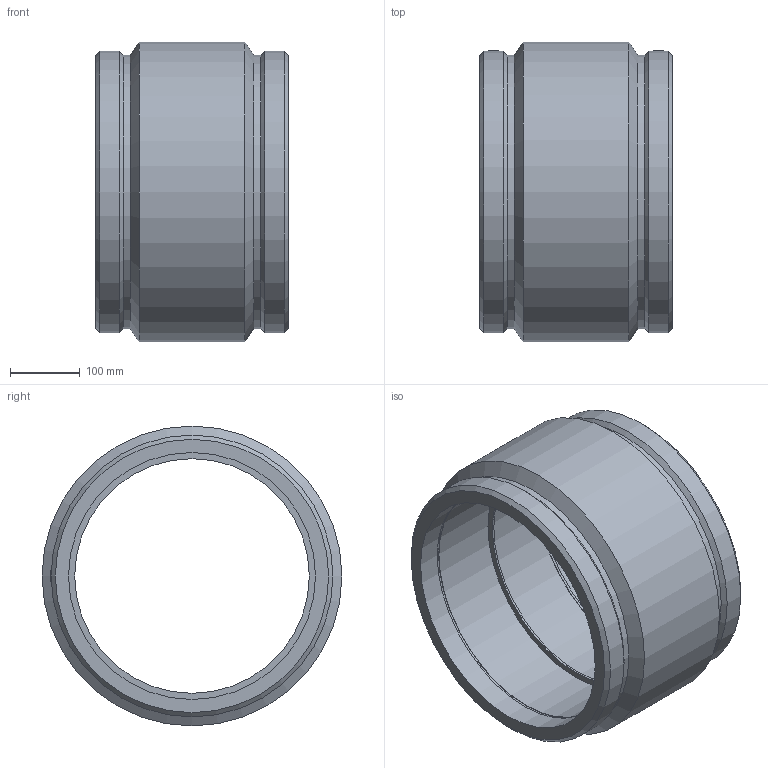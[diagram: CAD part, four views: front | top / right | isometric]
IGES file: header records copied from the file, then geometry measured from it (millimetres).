
Global section: file name: 490104355.ipt; native system: Autodesk Inventor 2015; preprocessor: unknown; author: KIM; date: 20171106.093558; units: millimetre
Bounding box: 277 x 431 x 431 mm (x, y, z)
Volume: 10772580.7 mm3; surface area: 778986.6 mm2
Topology: 1 solids, 1 shells, 36 faces, 80 edges, 54 vertices
Faces by surface type: plane 12, revolution 9, cone 8, cylinder 7
Full cylindrical faces by diameter (mm): 4 x2, 392.986 x2, 405.14 x2, 431 x1
